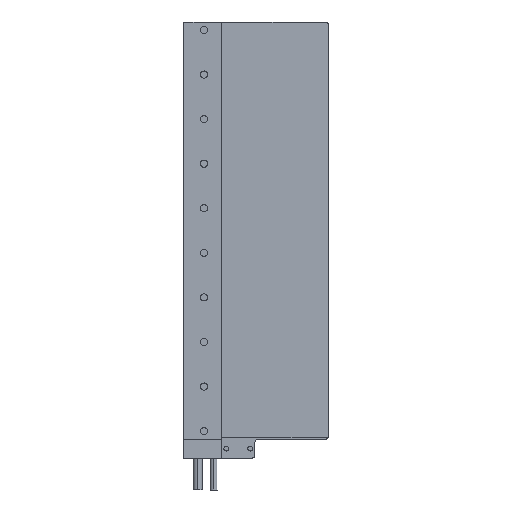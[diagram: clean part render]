
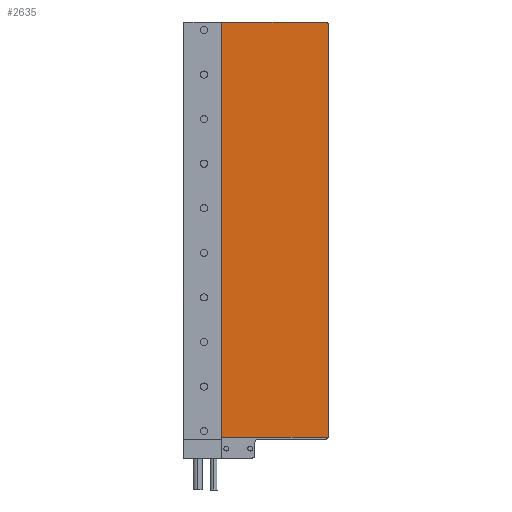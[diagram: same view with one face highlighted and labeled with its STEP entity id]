
A CAD part, front view. The second image highlights one B-rep face of the part: STEP entity #2635.
In plain terms, the highlighted planar face has unit normal (0, -1, 0).
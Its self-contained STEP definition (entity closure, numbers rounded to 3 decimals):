
#42 = CARTESIAN_POINT ( 'NONE',  ( 70.216, 123.159, 87.362 ) ) ;
#268 = CARTESIAN_POINT ( 'NONE',  ( 137.516, 123.159, 87.362 ) ) ;
#269 = ORIENTED_EDGE ( 'NONE', *, *, #3581, .F. ) ;
#354 = DIRECTION ( 'NONE',  ( -1., 0., 0. ) ) ;
#370 = VERTEX_POINT ( 'NONE', #3872 ) ;
#397 = CIRCLE ( 'NONE', #5875, 2. ) ;
#490 = CARTESIAN_POINT ( 'NONE',  ( 135.516, 123.159, 101.362 ) ) ;
#564 = DIRECTION ( 'NONE',  ( 0., 0., 1. ) ) ;
#567 = VERTEX_POINT ( 'NONE', #5184 ) ;
#636 = LINE ( 'NONE', #1294, #1487 ) ;
#661 = AXIS2_PLACEMENT_3D ( 'NONE', #1978, #1099, #1484 ) ;
#720 = CARTESIAN_POINT ( 'NONE',  ( 70.216, 123.159, 361.362 ) ) ;
#796 = ORIENTED_EDGE ( 'NONE', *, *, #5593, .T. ) ;
#1099 = DIRECTION ( 'NONE',  ( 0., -1., 0. ) ) ;
#1257 = LINE ( 'NONE', #5366, #6417 ) ;
#1294 = CARTESIAN_POINT ( 'NONE',  ( 137.516, 123.159, 361.362 ) ) ;
#1390 = LINE ( 'NONE', #268, #5771 ) ;
#1484 = DIRECTION ( 'NONE',  ( 1., 0., 0. ) ) ;
#1487 = VECTOR ( 'NONE', #2800, 1000. ) ;
#1820 = ORIENTED_EDGE ( 'NONE', *, *, #2880, .T. ) ;
#1849 = CARTESIAN_POINT ( 'NONE',  ( 137.516, 123.159, 87.362 ) ) ;
#1978 = CARTESIAN_POINT ( 'NONE',  ( 135.516, 123.159, 359.362 ) ) ;
#2017 = VERTEX_POINT ( 'NONE', #4446 ) ;
#2228 = AXIS2_PLACEMENT_3D ( 'NONE', #1849, #2972, #3257 ) ;
#2396 = CARTESIAN_POINT ( 'NONE',  ( 137.248, 123.159, 100.362 ) ) ;
#2439 = CIRCLE ( 'NONE', #661, 2. ) ;
#2506 = DIRECTION ( 'NONE',  ( 0., -1., 0. ) ) ;
#2635 = ADVANCED_FACE ( 'NONE', ( #4436 ), #6411, .F. ) ;
#2732 = VERTEX_POINT ( 'NONE', #5899 ) ;
#2800 = DIRECTION ( 'NONE',  ( -1., 0., 0. ) ) ;
#2821 = VECTOR ( 'NONE', #4046, 1000. ) ;
#2880 = EDGE_CURVE ( 'NONE', #2017, #567, #2439, .T. ) ;
#2972 = DIRECTION ( 'NONE',  ( 0., 1., 0. ) ) ;
#3257 = DIRECTION ( 'NONE',  ( 1., 0., 0. ) ) ;
#3436 = ORIENTED_EDGE ( 'NONE', *, *, #5661, .T. ) ;
#3438 = LINE ( 'NONE', #42, #2821 ) ;
#3581 = EDGE_CURVE ( 'NONE', #6220, #370, #1257, .T. ) ;
#3713 = ORIENTED_EDGE ( 'NONE', *, *, #4650, .T. ) ;
#3872 = CARTESIAN_POINT ( 'NONE',  ( 70.216, 123.159, 100.362 ) ) ;
#4046 = DIRECTION ( 'NONE',  ( 0., 0., 1. ) ) ;
#4436 = FACE_OUTER_BOUND ( 'NONE', #4764, .T. ) ;
#4446 = CARTESIAN_POINT ( 'NONE',  ( 137.516, 123.159, 359.362 ) ) ;
#4527 = ORIENTED_EDGE ( 'NONE', *, *, #5708, .F. ) ;
#4650 = EDGE_CURVE ( 'NONE', #567, #5941, #636, .T. ) ;
#4764 = EDGE_LOOP ( 'NONE', ( #796, #1820, #3713, #4527, #269, #3436 ) ) ;
#5184 = CARTESIAN_POINT ( 'NONE',  ( 135.516, 123.159, 361.362 ) ) ;
#5344 = DIRECTION ( 'NONE',  ( 0., 0., 1. ) ) ;
#5366 = CARTESIAN_POINT ( 'NONE',  ( 137.516, 123.159, 100.362 ) ) ;
#5593 = EDGE_CURVE ( 'NONE', #2732, #2017, #1390, .T. ) ;
#5661 = EDGE_CURVE ( 'NONE', #6220, #2732, #397, .T. ) ;
#5708 = EDGE_CURVE ( 'NONE', #370, #5941, #3438, .T. ) ;
#5771 = VECTOR ( 'NONE', #5344, 1000. ) ;
#5875 = AXIS2_PLACEMENT_3D ( 'NONE', #490, #2506, #564 ) ;
#5899 = CARTESIAN_POINT ( 'NONE',  ( 137.516, 123.159, 101.362 ) ) ;
#5941 = VERTEX_POINT ( 'NONE', #720 ) ;
#6220 = VERTEX_POINT ( 'NONE', #2396 ) ;
#6411 = PLANE ( 'NONE',  #2228 ) ;
#6417 = VECTOR ( 'NONE', #354, 1000. ) ;
